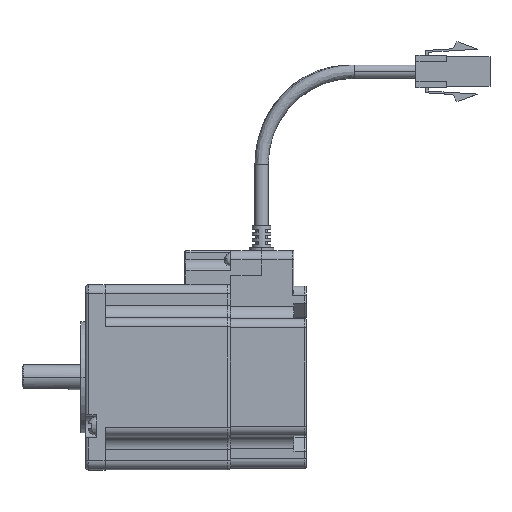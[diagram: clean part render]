
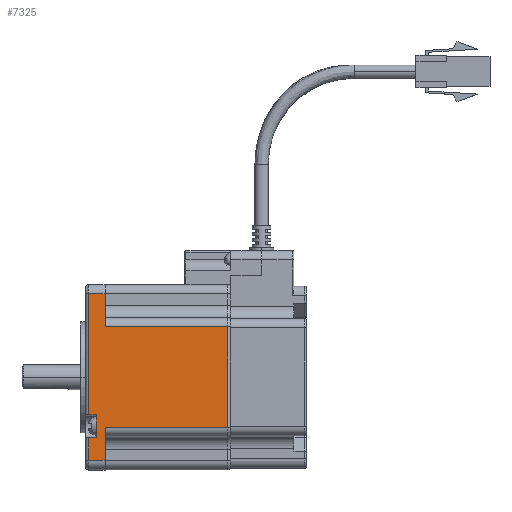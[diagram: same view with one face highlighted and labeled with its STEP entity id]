
A CAD part, top view. The second image highlights one B-rep face of the part: STEP entity #7325.
In plain terms, the highlighted planar face has unit normal (0, 0, 1) as drawn and (1, 0, 0) by its records, which use the part's own axes.
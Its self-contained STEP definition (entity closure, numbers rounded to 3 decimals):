
#726 = CARTESIAN_POINT ( 'NONE',  ( 92.176, -2.108, -211. ) ) ;
#1334 = DIRECTION ( 'NONE',  ( 0., 1., 0. ) ) ;
#2538 = ORIENTED_EDGE ( 'NONE', *, *, #31236, .T. ) ;
#2555 = ORIENTED_EDGE ( 'NONE', *, *, #21942, .T. ) ;
#2856 = DIRECTION ( 'NONE',  ( 0., 0., 1. ) ) ;
#3459 = VECTOR ( 'NONE', #24437, 1000. ) ;
#3952 = VECTOR ( 'NONE', #25947, 1000. ) ;
#4373 = CARTESIAN_POINT ( 'NONE',  ( 92.176, 1.992, -166. ) ) ;
#4421 = VECTOR ( 'NONE', #1334, 1000. ) ;
#4633 = LINE ( 'NONE', #19948, #16826 ) ;
#4883 = LINE ( 'NONE', #28165, #22756 ) ;
#5165 = LINE ( 'NONE', #5287, #4421 ) ;
#5287 = CARTESIAN_POINT ( 'NONE',  ( 92.176, -30.608, -166. ) ) ;
#7325 = ADVANCED_FACE ( 'NONE', ( #31157 ), #25505, .T. ) ;
#7465 = ORIENTED_EDGE ( 'NONE', *, *, #19448, .T. ) ;
#7517 = DIRECTION ( 'NONE',  ( 0., -1., 0. ) ) ;
#7520 = ORIENTED_EDGE ( 'NONE', *, *, #14404, .F. ) ;
#7618 = CARTESIAN_POINT ( 'NONE',  ( 92.176, -44.308, -205.7 ) ) ;
#7961 = ORIENTED_EDGE ( 'NONE', *, *, #21643, .T. ) ;
#7992 = CARTESIAN_POINT ( 'NONE',  ( 92.176, 5.292, -212. ) ) ;
#8060 = VERTEX_POINT ( 'NONE', #726 ) ;
#8096 = VERTEX_POINT ( 'NONE', #27959 ) ;
#8180 = CARTESIAN_POINT ( 'NONE',  ( 92.176, -30.608, -205.7 ) ) ;
#8230 = EDGE_CURVE ( 'NONE', #21612, #22253, #27850, .T. ) ;
#8250 = DIRECTION ( 'NONE',  ( 0., 0., -1. ) ) ;
#8312 = AXIS2_PLACEMENT_3D ( 'NONE', #25449, #25069, #25092 ) ;
#8698 = EDGE_CURVE ( 'NONE', #29699, #28554, #4883, .T. ) ;
#8877 = EDGE_CURVE ( 'NONE', #17459, #30252, #25344, .T. ) ;
#9423 = VECTOR ( 'NONE', #7517, 1000. ) ;
#9533 = VECTOR ( 'NONE', #17684, 1000. ) ;
#10375 = EDGE_CURVE ( 'NONE', #8060, #23761, #16744, .T. ) ;
#10931 = ORIENTED_EDGE ( 'NONE', *, *, #8698, .T. ) ;
#11272 = LINE ( 'NONE', #25919, #3952 ) ;
#11909 = CARTESIAN_POINT ( 'NONE',  ( 92.176, -41.308, -211. ) ) ;
#11935 = EDGE_CURVE ( 'NONE', #22253, #29699, #15119, .T. ) ;
#12364 = EDGE_CURVE ( 'NONE', #21612, #20053, #5165, .T. ) ;
#12741 = EDGE_CURVE ( 'NONE', #8096, #18441, #13918, .T. ) ;
#13419 = EDGE_LOOP ( 'NONE', ( #2555, #2538, #30118, #7520, #13826, #20318, #31218, #10931, #7465, #25653, #7961, #29249 ) ) ;
#13597 = VECTOR ( 'NONE', #17686, 1000. ) ;
#13826 = ORIENTED_EDGE ( 'NONE', *, *, #12364, .F. ) ;
#13918 = LINE ( 'NONE', #18978, #25956 ) ;
#14404 = EDGE_CURVE ( 'NONE', #20053, #18441, #11272, .T. ) ;
#15119 = LINE ( 'NONE', #7618, #9423 ) ;
#15790 = CARTESIAN_POINT ( 'NONE',  ( 92.176, -30.608, -212. ) ) ;
#15977 = VECTOR ( 'NONE', #18815, 1000. ) ;
#16370 = VECTOR ( 'NONE', #28634, 1000. ) ;
#16459 = LINE ( 'NONE', #27840, #3459 ) ;
#16735 = LINE ( 'NONE', #18897, #15977 ) ;
#16744 = LINE ( 'NONE', #17437, #9533 ) ;
#16826 = VECTOR ( 'NONE', #2856, 1000. ) ;
#17138 = LINE ( 'NONE', #30078, #16370 ) ;
#17437 = CARTESIAN_POINT ( 'NONE',  ( 92.176, -2.108, -212. ) ) ;
#17459 = VERTEX_POINT ( 'NONE', #19098 ) ;
#17684 = DIRECTION ( 'NONE',  ( 0., 0., 1. ) ) ;
#17686 = DIRECTION ( 'NONE',  ( 0., 0., -1. ) ) ;
#18323 = CARTESIAN_POINT ( 'NONE',  ( 92.176, 5.292, -211. ) ) ;
#18441 = VERTEX_POINT ( 'NONE', #18955 ) ;
#18815 = DIRECTION ( 'NONE',  ( 0., 1., 0. ) ) ;
#18897 = CARTESIAN_POINT ( 'NONE',  ( 92.176, -44.308, -211. ) ) ;
#18904 = DIRECTION ( 'NONE',  ( 0., -1., 0. ) ) ;
#18955 = CARTESIAN_POINT ( 'NONE',  ( 92.176, 1.992, -205.7 ) ) ;
#18978 = CARTESIAN_POINT ( 'NONE',  ( 92.176, -44.308, -205.7 ) ) ;
#19098 = CARTESIAN_POINT ( 'NONE',  ( 92.176, 5.292, -208.5 ) ) ;
#19448 = EDGE_CURVE ( 'NONE', #28554, #8060, #16459, .T. ) ;
#19948 = CARTESIAN_POINT ( 'NONE',  ( 92.176, 12.692, -212. ) ) ;
#20053 = VERTEX_POINT ( 'NONE', #4373 ) ;
#20318 = ORIENTED_EDGE ( 'NONE', *, *, #8230, .T. ) ;
#21612 = VERTEX_POINT ( 'NONE', #29580 ) ;
#21643 = EDGE_CURVE ( 'NONE', #23761, #17459, #17138, .T. ) ;
#21942 = EDGE_CURVE ( 'NONE', #30252, #25471, #16735, .T. ) ;
#22253 = VERTEX_POINT ( 'NONE', #8180 ) ;
#22539 = CARTESIAN_POINT ( 'NONE',  ( 92.176, 12.692, -211. ) ) ;
#22756 = VECTOR ( 'NONE', #27681, 1000. ) ;
#23761 = VERTEX_POINT ( 'NONE', #28784 ) ;
#24437 = DIRECTION ( 'NONE',  ( 0., 1., 0. ) ) ;
#24611 = VECTOR ( 'NONE', #8250, 1000. ) ;
#24660 = CARTESIAN_POINT ( 'NONE',  ( 92.176, -41.308, -205.7 ) ) ;
#25069 = DIRECTION ( 'NONE',  ( 1., 0., 0. ) ) ;
#25092 = DIRECTION ( 'NONE',  ( 0., 0., -1. ) ) ;
#25344 = LINE ( 'NONE', #7992, #24611 ) ;
#25449 = CARTESIAN_POINT ( 'NONE',  ( 92.176, -44.308, -212. ) ) ;
#25471 = VERTEX_POINT ( 'NONE', #22539 ) ;
#25505 = PLANE ( 'NONE',  #8312 ) ;
#25653 = ORIENTED_EDGE ( 'NONE', *, *, #10375, .T. ) ;
#25919 = CARTESIAN_POINT ( 'NONE',  ( 92.176, 1.992, -205.7 ) ) ;
#25947 = DIRECTION ( 'NONE',  ( 0., 0., -1. ) ) ;
#25956 = VECTOR ( 'NONE', #18904, 1000. ) ;
#27681 = DIRECTION ( 'NONE',  ( 0., 0., -1. ) ) ;
#27840 = CARTESIAN_POINT ( 'NONE',  ( 92.176, -44.308, -211. ) ) ;
#27850 = LINE ( 'NONE', #15790, #13597 ) ;
#27959 = CARTESIAN_POINT ( 'NONE',  ( 92.176, 12.692, -205.7 ) ) ;
#28165 = CARTESIAN_POINT ( 'NONE',  ( 92.176, -41.308, -212. ) ) ;
#28554 = VERTEX_POINT ( 'NONE', #11909 ) ;
#28634 = DIRECTION ( 'NONE',  ( 0., 1., 0. ) ) ;
#28784 = CARTESIAN_POINT ( 'NONE',  ( 92.176, -2.108, -208.5 ) ) ;
#29249 = ORIENTED_EDGE ( 'NONE', *, *, #8877, .T. ) ;
#29580 = CARTESIAN_POINT ( 'NONE',  ( 92.176, -30.608, -166. ) ) ;
#29699 = VERTEX_POINT ( 'NONE', #24660 ) ;
#30078 = CARTESIAN_POINT ( 'NONE',  ( 92.176, -44.308, -208.5 ) ) ;
#30118 = ORIENTED_EDGE ( 'NONE', *, *, #12741, .T. ) ;
#30252 = VERTEX_POINT ( 'NONE', #18323 ) ;
#31157 = FACE_OUTER_BOUND ( 'NONE', #13419, .T. ) ;
#31218 = ORIENTED_EDGE ( 'NONE', *, *, #11935, .T. ) ;
#31236 = EDGE_CURVE ( 'NONE', #25471, #8096, #4633, .T. ) ;
